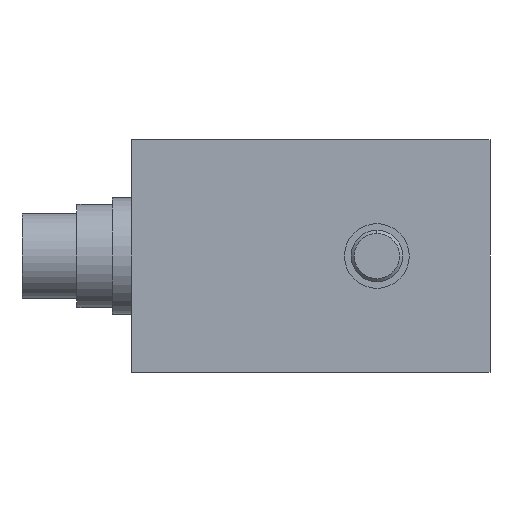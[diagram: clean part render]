
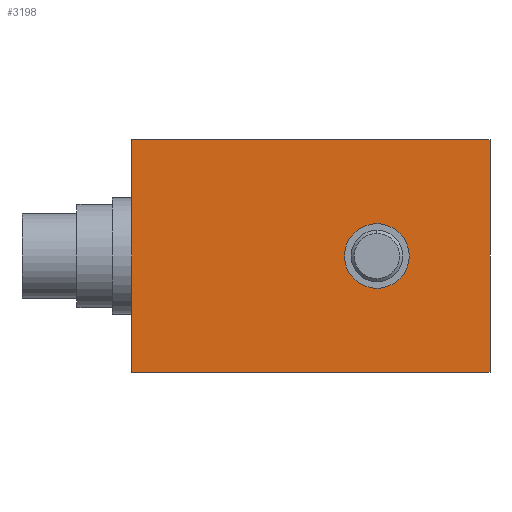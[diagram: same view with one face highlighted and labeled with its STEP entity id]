
A CAD part, left-side view. The second image highlights one B-rep face of the part: STEP entity #3198.
In plain terms, the highlighted planar face has unit normal (-1, 0, 0).
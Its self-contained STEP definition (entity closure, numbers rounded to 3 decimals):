
#136 = CARTESIAN_POINT ( 'NONE',  ( 16., 37.9, 18. ) ) ;
#754 = AXIS2_PLACEMENT_3D ( 'NONE', #11345, #5535, #12334 ) ;
#773 = CIRCLE ( 'NONE', #754, 5. ) ;
#1165 = CARTESIAN_POINT ( 'NONE',  ( 16., 0., 0. ) ) ;
#1433 = EDGE_CURVE ( 'NONE', #10375, #9510, #11858, .T. ) ;
#1774 = CARTESIAN_POINT ( 'NONE',  ( 16., -17.5, 18. ) ) ;
#1946 = FACE_OUTER_BOUND ( 'NONE', #4446, .T. ) ;
#2120 = DIRECTION ( 'NONE',  ( 0., 0., 1. ) ) ;
#2394 = VERTEX_POINT ( 'NONE', #8570 ) ;
#2670 = CARTESIAN_POINT ( 'NONE',  ( 16., -17.5, 18. ) ) ;
#2762 = DIRECTION ( 'NONE',  ( -1., 0., 0. ) ) ;
#2882 = CARTESIAN_POINT ( 'NONE',  ( 16., 10.2, 0. ) ) ;
#3198 = ADVANCED_FACE ( 'NONE', ( #7141, #1946 ), #9565, .T. ) ;
#3476 = CIRCLE ( 'NONE', #6710, 5. ) ;
#3938 = DIRECTION ( 'NONE',  ( 0., 0., -1. ) ) ;
#3991 = EDGE_CURVE ( 'NONE', #11221, #6984, #773, .T. ) ;
#4175 = EDGE_CURVE ( 'NONE', #8076, #2394, #4999, .T. ) ;
#4301 = CARTESIAN_POINT ( 'NONE',  ( 16., 0., 5. ) ) ;
#4416 = VECTOR ( 'NONE', #8548, 1000. ) ;
#4446 = EDGE_LOOP ( 'NONE', ( #10809, #6520, #7501, #10583 ) ) ;
#4999 = LINE ( 'NONE', #5703, #8504 ) ;
#5535 = DIRECTION ( 'NONE',  ( -1., 0., 0. ) ) ;
#5703 = CARTESIAN_POINT ( 'NONE',  ( 16., 37.9, 18. ) ) ;
#6061 = LINE ( 'NONE', #136, #6369 ) ;
#6369 = VECTOR ( 'NONE', #3938, 1000. ) ;
#6520 = ORIENTED_EDGE ( 'NONE', *, *, #8485, .T. ) ;
#6710 = AXIS2_PLACEMENT_3D ( 'NONE', #1165, #7939, #2120 ) ;
#6839 = CARTESIAN_POINT ( 'NONE',  ( 16., 37.9, -18. ) ) ;
#6931 = ORIENTED_EDGE ( 'NONE', *, *, #3991, .F. ) ;
#6984 = VERTEX_POINT ( 'NONE', #4301 ) ;
#7141 = FACE_BOUND ( 'NONE', #10767, .T. ) ;
#7149 = LINE ( 'NONE', #1774, #11999 ) ;
#7171 = CARTESIAN_POINT ( 'NONE',  ( 16., 37.9, -18. ) ) ;
#7198 = DIRECTION ( 'NONE',  ( 0., 0., 1. ) ) ;
#7312 = CARTESIAN_POINT ( 'NONE',  ( 16., -17.5, -18. ) ) ;
#7501 = ORIENTED_EDGE ( 'NONE', *, *, #4175, .T. ) ;
#7594 = DIRECTION ( 'NONE',  ( 0., 0., 1. ) ) ;
#7939 = DIRECTION ( 'NONE',  ( -1., 0., 0. ) ) ;
#8076 = VERTEX_POINT ( 'NONE', #2670 ) ;
#8244 = ORIENTED_EDGE ( 'NONE', *, *, #9248, .F. ) ;
#8485 = EDGE_CURVE ( 'NONE', #9510, #8076, #7149, .T. ) ;
#8504 = VECTOR ( 'NONE', #11520, 1000. ) ;
#8548 = DIRECTION ( 'NONE',  ( 0., -1., 0. ) ) ;
#8570 = CARTESIAN_POINT ( 'NONE',  ( 16., 37.9, 18. ) ) ;
#9172 = EDGE_CURVE ( 'NONE', #2394, #10375, #6061, .T. ) ;
#9248 = EDGE_CURVE ( 'NONE', #6984, #11221, #3476, .T. ) ;
#9510 = VERTEX_POINT ( 'NONE', #7312 ) ;
#9565 = PLANE ( 'NONE',  #11226 ) ;
#10375 = VERTEX_POINT ( 'NONE', #6839 ) ;
#10583 = ORIENTED_EDGE ( 'NONE', *, *, #9172, .T. ) ;
#10767 = EDGE_LOOP ( 'NONE', ( #6931, #8244 ) ) ;
#10809 = ORIENTED_EDGE ( 'NONE', *, *, #1433, .T. ) ;
#11221 = VERTEX_POINT ( 'NONE', #12010 ) ;
#11226 = AXIS2_PLACEMENT_3D ( 'NONE', #2882, #2762, #7198 ) ;
#11345 = CARTESIAN_POINT ( 'NONE',  ( 16., 0., 0. ) ) ;
#11520 = DIRECTION ( 'NONE',  ( 0., 1., 0. ) ) ;
#11858 = LINE ( 'NONE', #7171, #4416 ) ;
#11999 = VECTOR ( 'NONE', #7594, 1000. ) ;
#12010 = CARTESIAN_POINT ( 'NONE',  ( 16., 0., -5. ) ) ;
#12334 = DIRECTION ( 'NONE',  ( 0., 0., 1. ) ) ;
